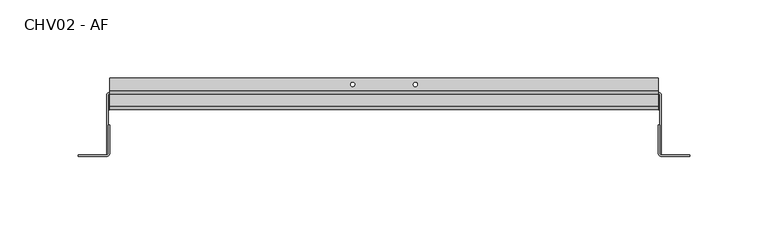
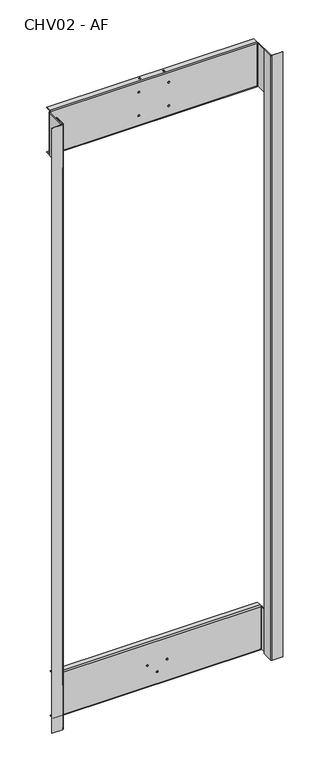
"""IFC4 building model written with IfcOpenShell, lengths in millimetres: pipe fitting geometry, CHV02 - AF : Chassi Chuveiro 02 - AF."""

from ifc_helpers import new_model, si_unit, frame, origin, place, context, project, spatial, polyline, circle_curve, source, transform, mapped, element, save
from ifc_brep_helpers import plane_surface, cylinder_surface, revolved_surface, advanced_brep


def chv02_af_7513bb66(model_context):
    return source(origin(), model_context, "Body", "AdvancedBrep", [
        advanced_brep(
        [(23.9210412, 0.0, 1020.95), (26.6210412, 0.0, 1020.95), (26.6210412, 0.95, 1020.95), (23.9210412, 0.95, 1020.95), (-26.6192949, 0.0, 1020.95), (-23.9192949, 0.0, 1020.95), (-23.9192949, 0.95, 1020.95), (-26.6192949, 0.95, 1020.95), (20.0, 7.325, 1081.0), (21.35, 5.975, 1081.0), (20.0, 4.625, 1081.0), (20.0, 4.625, 1081.95), (21.35, 5.975, 1081.95), (20.0, 7.325, 1081.95), (-20.0, 7.325, 1081.0), (-18.65, 5.975, 1081.0), (-20.0, 4.625, 1081.0), (-20.0, 4.625, 1081.95), (-18.65, 5.975, 1081.95), (-20.0, 7.325, 1081.95), (20.0, 7.325, 1002.9), (20.0, 4.625, 1002.9), (20.0, 4.625, 1001.95), (20.0, 7.325, 1001.95), (-20.0, 7.325, 1002.9), (-20.0, 4.625, 1002.9), (-20.0, 4.625, 1001.95), (-20.0, 7.325, 1001.95), (-1.3500783, -10.0, 25.2), (-7.83e-05, -10.0, 23.85), (1.3499217, -10.0, 25.2), (1.3499217, -9.05, 25.2), (-7.83e-05, -9.05, 23.85), (-1.3500783, -9.05, 25.2), (15.3999217, -10.0, 41.95), (16.7499217, -10.0, 40.6), (18.0999217, -10.0, 41.95), (18.0999217, -9.05, 41.95), (16.7499217, -9.05, 40.6), (15.3999217, -9.05, 41.95), (-18.1000783, -10.0, 41.95), (-16.7500783, -10.0, 40.6), (-15.4000783, -10.0, 41.95), (-15.4000783, -9.05, 41.95), (-16.7500783, -9.05, 40.6), (-18.1000783, -9.05, 41.95), (-26.6192949, 0.0, 1062.95), (-23.9192949, 0.0, 1062.95), (-23.9192949, 0.95, 1062.95), (-26.6192949, 0.95, 1062.95), (23.9210412, 0.0, 1062.95), (26.6210412, 0.0, 1062.95), (26.6210412, 0.95, 1062.95), (23.9210412, 0.95, 1062.95), (-175.0, 0.95, 1003.9), (-175.0, 0.95, 1080.0), (175.0, 0.95, 1080.0), (175.0, 0.95, 1003.9), (-176.95, -11.0, 80.0), (-176.95, -11.0, 3.9), (-176.95, -39.0487492, 3.9), (-176.95, -39.0487492, 80.0), (-176.0, -38.05, 80.0), (-176.0, -20.0, 80.0), (-176.0, -11.0, 80.0), (-175.0, -10.0, 80.0), (-175.0, -9.05, 80.0), (176.0, -38.05, 3.9), (176.0, -20.0, 3.9), (176.0, -11.0, 3.9), (175.0, -10.0, 3.9), (175.0, -9.05, 3.9), (176.95, -11.0, 3.9), (176.95, -39.0487492, 3.9), (176.95, -11.0, 80.0), (176.95, -39.0487492, 80.0), (175.0, -9.05, 80.0), (175.0, -10.0, 80.0), (176.0, -11.0, 80.0), (176.0, -20.0, 80.0), (176.0, -38.05, 80.0), (-175.0, -10.0, 3.9), (-175.0, -8.05, 1.95), (175.0, -8.05, 1.95), (175.0, -8.05, 2.9), (-175.0, -8.05, 2.9), (-175.0, -9.05, 3.9), (-175.0, 0.0, 1.95), (175.0, 0.0, 1.95), (175.0, 0.0, 2.9), (-175.0, 0.0, 2.9), (175.0, -8.05, 81.95), (-175.0, -8.05, 81.95), (-175.0, -8.05, 81.0), (175.0, -8.05, 81.0), (175.0, 0.0, 81.95), (-175.0, 0.0, 81.95), (-175.0, 0.0, 81.0), (175.0, 0.0, 81.0), (-176.0, -11.0, 3.9), (-176.0, -20.0, 3.9), (176.0, -20.0, 1003.9), (176.0, -38.05, 1003.9), (176.0, -38.05, 1.95), (176.0, -20.0, 1.95), (176.95, -39.0487492, 1003.9), (176.95, -39.0487492, 1080.0), (176.0, -38.05, 1080.0), (176.0, -38.05, 1081.95), (177.0, -39.05, 1081.95), (177.0, -39.05, 1.95), (-176.0, -38.05, 1003.9), (-176.0, -20.0, 1003.9), (-176.0, -20.0, 1.95), (-176.0, -38.05, 1.95), (-176.0, -38.05, 3.9), (-177.0, -39.05, 1.95), (-177.0, -39.05, 1081.95), (-176.0, -38.05, 1081.95), (-176.0, -38.05, 1080.0), (-176.95, -39.0487492, 1080.0), (-176.95, -39.0487492, 1003.9), (176.95, -1.0, 1003.9), (176.95, -1.0, 1080.0), (175.0, 0.0, 1080.0), (176.0, -1.0, 1080.0), (176.0, -20.0, 1080.0), (176.0, -1.0, 1003.9), (175.0, 0.0, 1003.9), (-176.95, -1.0, 1080.0), (-176.95, -1.0, 1003.9), (-176.0, -20.0, 1080.0), (-176.0, -1.0, 1080.0), (-175.0, 0.0, 1080.0), (-175.0, 0.0, 1003.9), (-176.0, -1.0, 1003.9), (-18.65, 5.975, 1001.95), (-18.65, 5.975, 1002.9), (21.35, 5.975, 1001.95), (21.35, 5.975, 1002.9), (175.0, 1.95, 1081.0), (175.0, 10.0, 1081.0), (175.0, 10.0, 1081.95), (175.0, 1.95, 1081.95), (175.0, 1.95, 1001.95), (175.0, 10.0, 1001.95), (175.0, 10.0, 1002.9), (175.0, 1.95, 1002.9), (-175.0, 10.0, 1081.95), (-175.0, 1.95, 1081.95), (-175.0, 10.0, 1081.0), (-175.0, 1.95, 1081.0), (-175.0, 1.95, 1002.9), (-175.0, 10.0, 1002.9), (-175.0, 10.0, 1001.95), (-175.0, 1.95, 1001.95), (-176.0, -20.0, 1081.95), (-175.05, -20.0, 1081.95), (-195.05, -39.05, 1081.95), (-195.05, -40.0, 1081.95), (-177.0, -40.0, 1081.95), (-175.05, -38.05, 1081.95), (-175.05, -20.0, 1.95), (-175.05, -38.05, 1.95), (-177.0, -40.0, 1.95), (-195.05, -40.0, 1.95), (-195.05, -39.05, 1.95), (176.0, -20.0, 1081.95), (175.05, -20.0, 1.95), (195.05, -39.05, 1.95), (195.05, -40.0, 1.95), (177.0, -40.0, 1.95), (175.05, -38.05, 1.95), (175.05, -20.0, 1081.95), (175.05, -38.05, 1081.95), (177.0, -40.0, 1081.95), (195.05, -40.0, 1081.95), (195.05, -39.05, 1081.95)],
        [
            (0, 1, circle_curve(frame((25.2710412, 0.0, 1020.95), z_axis=(0.0, -1.0, 0.0), x_axis=(-1.0, 0.0, 0.0)), 1.35)),
            (1, 2),
            (2, 3, circle_curve(frame((25.2710412, 0.95, 1020.95), z_axis=(0.0, 1.0, 0.0), x_axis=(-1.0, 0.0, 0.0)), 1.35)),
            (3, 0),
            (4, 5, circle_curve(frame((-25.2692949, 0.0, 1020.95), z_axis=(0.0, -1.0, 0.0), x_axis=(-1.0, 0.0, 0.0)), 1.35)),
            (5, 6),
            (6, 7, circle_curve(frame((-25.2692949, 0.95, 1020.95), z_axis=(0.0, 1.0, 0.0), x_axis=(-1.0, 0.0, 0.0)), 1.35)),
            (7, 4),
            (8, 9, circle_curve(frame((20.0, 5.975, 1081.0), z_axis=(0.0, 0.0, -1.0), x_axis=(0.0, 1.0, 0.0)), 1.35)),
            (9, 10, circle_curve(frame((20.0, 5.975, 1081.0), z_axis=(0.0, 0.0, -1.0), x_axis=(0.0, 1.0, 0.0)), 1.35)),
            (10, 11),
            (11, 12, circle_curve(frame((20.0, 5.975, 1081.95), z_axis=(0.0, 0.0, 1.0), x_axis=(0.0, 1.0, 0.0)), 1.35)),
            (12, 13, circle_curve(frame((20.0, 5.975, 1081.95), z_axis=(0.0, 0.0, 1.0), x_axis=(0.0, 1.0, 0.0)), 1.35)),
            (13, 8),
            (14, 15, circle_curve(frame((-20.0, 5.975, 1081.0), z_axis=(0.0, 0.0, -1.0), x_axis=(0.0, 1.0, 0.0)), 1.35)),
            (15, 16, circle_curve(frame((-20.0, 5.975, 1081.0), z_axis=(0.0, 0.0, -1.0), x_axis=(0.0, 1.0, 0.0)), 1.35)),
            (16, 17),
            (17, 18, circle_curve(frame((-20.0, 5.975, 1081.95), z_axis=(0.0, 0.0, 1.0), x_axis=(0.0, 1.0, 0.0)), 1.35)),
            (18, 19, circle_curve(frame((-20.0, 5.975, 1081.95), z_axis=(0.0, 0.0, 1.0), x_axis=(0.0, 1.0, 0.0)), 1.35)),
            (19, 14),
            (20, 21, circle_curve(frame((20.0, 5.975, 1002.9), z_axis=(0.0, 0.0, 1.0), x_axis=(0.0, 1.0, 0.0)), 1.35)),
            (21, 22),
            (22, 23, circle_curve(frame((20.0, 5.975, 1001.95), z_axis=(0.0, 0.0, -1.0), x_axis=(0.0, 1.0, 0.0)), 1.35)),
            (23, 20),
            (24, 25, circle_curve(frame((-20.0, 5.975, 1002.9), z_axis=(0.0, 0.0, 1.0), x_axis=(0.0, 1.0, 0.0)), 1.35)),
            (25, 26),
            (26, 27, circle_curve(frame((-20.0, 5.975, 1001.95), z_axis=(0.0, 0.0, -1.0), x_axis=(0.0, 1.0, 0.0)), 1.35)),
            (27, 24),
            (28, 29, circle_curve(frame((-7.83e-05, -10.0, 25.2), z_axis=(0.0, -1.0, 0.0), x_axis=(-1.0, 0.0, 0.0)), 1.35)),
            (29, 30, circle_curve(frame((-7.83e-05, -10.0, 25.2), z_axis=(0.0, -1.0, 0.0), x_axis=(-1.0, 0.0, 0.0)), 1.35)),
            (30, 31),
            (31, 32, circle_curve(frame((-7.83e-05, -9.05, 25.2), z_axis=(0.0, 1.0, 0.0), x_axis=(-1.0, 0.0, 0.0)), 1.35)),
            (32, 33, circle_curve(frame((-7.83e-05, -9.05, 25.2), z_axis=(0.0, 1.0, 0.0), x_axis=(-1.0, 0.0, 0.0)), 1.35)),
            (33, 28),
            (34, 35, circle_curve(frame((16.7499217, -10.0, 41.95), z_axis=(0.0, -1.0, 0.0), x_axis=(-1.0, 0.0, 0.0)), 1.35)),
            (35, 36, circle_curve(frame((16.7499217, -10.0, 41.95), z_axis=(0.0, -1.0, 0.0), x_axis=(-1.0, 0.0, 0.0)), 1.35)),
            (36, 37),
            (37, 38, circle_curve(frame((16.7499217, -9.05, 41.95), z_axis=(0.0, 1.0, 0.0), x_axis=(-1.0, 0.0, 0.0)), 1.35)),
            (38, 39, circle_curve(frame((16.7499217, -9.05, 41.95), z_axis=(0.0, 1.0, 0.0), x_axis=(-1.0, 0.0, 0.0)), 1.35)),
            (39, 34),
            (40, 41, circle_curve(frame((-16.7500783, -10.0, 41.95), z_axis=(0.0, -1.0, 0.0), x_axis=(-1.0, 0.0, 0.0)), 1.35)),
            (41, 42, circle_curve(frame((-16.7500783, -10.0, 41.95), z_axis=(0.0, -1.0, 0.0), x_axis=(-1.0, 0.0, 0.0)), 1.35)),
            (42, 43),
            (43, 44, circle_curve(frame((-16.7500783, -9.05, 41.95), z_axis=(0.0, 1.0, 0.0), x_axis=(-1.0, 0.0, 0.0)), 1.35)),
            (44, 45, circle_curve(frame((-16.7500783, -9.05, 41.95), z_axis=(0.0, 1.0, 0.0), x_axis=(-1.0, 0.0, 0.0)), 1.35)),
            (45, 40),
            (46, 47, circle_curve(frame((-25.2692949, 0.0, 1062.95), z_axis=(0.0, -1.0, 0.0), x_axis=(-1.0, 0.0, 0.0)), 1.35)),
            (47, 48),
            (48, 49, circle_curve(frame((-25.2692949, 0.95, 1062.95), z_axis=(0.0, 1.0, 0.0), x_axis=(-1.0, 0.0, 0.0)), 1.35)),
            (49, 46),
            (50, 51, circle_curve(frame((25.2710412, 0.0, 1062.95), z_axis=(0.0, -1.0, 0.0), x_axis=(-1.0, 0.0, 0.0)), 1.35)),
            (51, 52),
            (52, 53, circle_curve(frame((25.2710412, 0.95, 1062.95), z_axis=(0.0, 1.0, 0.0), x_axis=(-1.0, 0.0, 0.0)), 1.35)),
            (53, 50),
            (54, 55),
            (55, 56),
            (56, 57),
            (57, 54),
            (2, 3, circle_curve(frame((25.2710412, 0.95, 1020.95), z_axis=(0.0, -1.0, 0.0), x_axis=(-1.0, 0.0, 0.0)), 1.35)),
            (6, 7, circle_curve(frame((-25.2692949, 0.95, 1020.95), z_axis=(0.0, -1.0, 0.0), x_axis=(-1.0, 0.0, 0.0)), 1.35)),
            (48, 49, circle_curve(frame((-25.2692949, 0.95, 1062.95), z_axis=(0.0, -1.0, 0.0), x_axis=(-1.0, 0.0, 0.0)), 1.35)),
            (52, 53, circle_curve(frame((25.2710412, 0.95, 1062.95), z_axis=(0.0, -1.0, 0.0), x_axis=(-1.0, 0.0, 0.0)), 1.35)),
            (51, 50, circle_curve(frame((25.2710412, 0.0, 1062.95), z_axis=(0.0, -1.0, 0.0), x_axis=(-1.0, 0.0, 0.0)), 1.35)),
            (47, 46, circle_curve(frame((-25.2692949, 0.0, 1062.95), z_axis=(0.0, -1.0, 0.0), x_axis=(-1.0, 0.0, 0.0)), 1.35)),
            (58, 59),
            (59, 60),
            (60, 61),
            (61, 58),
            (62, 63),
            (63, 64),
            (64, 65, circle_curve(frame((-175.0, -11.0, 80.0), z_axis=(0.0, 0.0, -1.0), x_axis=(0.0, -1.0, 0.0)), 1.0)),
            (65, 66),
            (66, 58, circle_curve(frame((-175.0, -11.0, 80.0), z_axis=(0.0, 0.0, 1.0), x_axis=(0.0, -1.0, 0.0)), 1.95)),
            (61, 62, circle_curve(frame((-177.0, -38.05, 80.0), z_axis=(0.0, 0.0, 1.0), x_axis=(-1.0, 0.0, 0.0)), 1.0)),
            (67, 68),
            (68, 69),
            (69, 70, circle_curve(frame((175.0, -11.0, 3.9), z_axis=(0.0, 0.0, 1.0), x_axis=(0.0, -1.0, 0.0)), 1.0)),
            (70, 71),
            (71, 72, circle_curve(frame((175.0, -11.0, 3.9), z_axis=(0.0, 0.0, -1.0), x_axis=(0.0, -1.0, 0.0)), 1.95)),
            (72, 73),
            (73, 67, circle_curve(frame((177.0, -38.05, 3.9), z_axis=(0.0, 0.0, -1.0), x_axis=(1.0, 0.0, 0.0)), 1.0)),
            (72, 74),
            (74, 75),
            (75, 73),
            (74, 76, circle_curve(frame((175.0, -11.0, 80.0), z_axis=(0.0, 0.0, 1.0), x_axis=(0.0, -1.0, 0.0)), 1.95)),
            (76, 77),
            (77, 78, circle_curve(frame((175.0, -11.0, 80.0), z_axis=(0.0, 0.0, -1.0), x_axis=(0.0, -1.0, 0.0)), 1.0)),
            (78, 79),
            (79, 80),
            (80, 75, circle_curve(frame((177.0, -38.05, 80.0), z_axis=(0.0, 0.0, 1.0), x_axis=(1.0, 0.0, 0.0)), 1.0)),
            (78, 69),
            (68, 79),
            (81, 82, circle_curve(frame((-175.0, -8.05, 3.9), z_axis=(1.0, 0.0, 0.0), x_axis=(0.0, 1.0, 0.0)), 1.95)),
            (82, 83),
            (83, 70, circle_curve(frame((175.0, -8.05, 3.9), z_axis=(-1.0, 0.0, 0.0), x_axis=(0.0, 1.0, 0.0)), 1.95)),
            (70, 81),
            (71, 84, circle_curve(frame((175.0, -8.05, 3.9), z_axis=(1.0, 0.0, 0.0), x_axis=(0.0, 1.0, 0.0)), 1.0)),
            (84, 85),
            (85, 86, circle_curve(frame((-175.0, -8.05, 3.9), z_axis=(-1.0, 0.0, 0.0), x_axis=(0.0, 1.0, 0.0)), 1.0)),
            (86, 71),
            (87, 88),
            (88, 83),
            (82, 87),
            (84, 89),
            (89, 90),
            (90, 85),
            (89, 88),
            (87, 90),
            (77, 91, circle_curve(frame((175.0, -8.05, 80.0), z_axis=(-1.0, 0.0, 0.0), x_axis=(0.0, 1.0, 0.0)), 1.95)),
            (91, 92),
            (92, 65, circle_curve(frame((-175.0, -8.05, 80.0), z_axis=(1.0, 0.0, 0.0), x_axis=(0.0, 1.0, 0.0)), 1.95)),
            (65, 77),
            (66, 93, circle_curve(frame((-175.0, -8.05, 80.0), z_axis=(-1.0, 0.0, 0.0), x_axis=(0.0, 1.0, 0.0)), 1.0)),
            (93, 94),
            (94, 76, circle_curve(frame((175.0, -8.05, 80.0), z_axis=(1.0, 0.0, 0.0), x_axis=(0.0, 1.0, 0.0)), 1.0)),
            (76, 66),
            (95, 96),
            (96, 92),
            (91, 95),
            (93, 97),
            (97, 98),
            (98, 94),
            (97, 96),
            (95, 98),
            (65, 81),
            (70, 77),
            (28, 30, circle_curve(frame((-7.83e-05, -10.0, 25.2), z_axis=(0.0, 1.0, 0.0), x_axis=(-1.0, 0.0, 0.0)), 1.35)),
            (34, 36, circle_curve(frame((16.7499217, -10.0, 41.95), z_axis=(0.0, 1.0, 0.0), x_axis=(-1.0, 0.0, 0.0)), 1.35)),
            (40, 42, circle_curve(frame((-16.7500783, -10.0, 41.95), z_axis=(0.0, 1.0, 0.0), x_axis=(-1.0, 0.0, 0.0)), 1.35)),
            (86, 66),
            (76, 71),
            (31, 33, circle_curve(frame((-7.83e-05, -9.05, 25.2), z_axis=(0.0, -1.0, 0.0), x_axis=(-1.0, 0.0, 0.0)), 1.35)),
            (37, 39, circle_curve(frame((16.7499217, -9.05, 41.95), z_axis=(0.0, -1.0, 0.0), x_axis=(-1.0, 0.0, 0.0)), 1.35)),
            (43, 45, circle_curve(frame((-16.7500783, -9.05, 41.95), z_axis=(0.0, -1.0, 0.0), x_axis=(-1.0, 0.0, 0.0)), 1.35)),
            (64, 99),
            (99, 81, circle_curve(frame((-175.0, -11.0, 3.9), z_axis=(0.0, 0.0, -1.0), x_axis=(0.0, -1.0, 0.0)), 1.0)),
            (86, 59, circle_curve(frame((-175.0, -11.0, 3.9), z_axis=(0.0, 0.0, 1.0), x_axis=(0.0, -1.0, 0.0)), 1.95)),
            (63, 100),
            (100, 99),
            (81, 86),
            (101, 102),
            (102, 80),
            (79, 101),
            (103, 104),
            (104, 68),
            (67, 103),
            (102, 105, circle_curve(frame((177.0, -38.05, 1003.9), z_axis=(0.0, 0.0, 1.0), x_axis=(1.0, 0.0, 0.0)), 1.0)),
            (105, 106),
            (106, 107, circle_curve(frame((177.0, -38.05, 1080.0), z_axis=(0.0, 0.0, -1.0), x_axis=(1.0, 0.0, 0.0)), 1.0)),
            (107, 108),
            (108, 109, circle_curve(frame((177.0, -38.05, 1081.95), z_axis=(0.0, 0.0, 1.0), x_axis=(1.0, 0.0, 0.0)), 1.0)),
            (109, 110),
            (110, 103, circle_curve(frame((177.0, -38.05, 1.95), z_axis=(0.0, 0.0, -1.0), x_axis=(1.0, 0.0, 0.0)), 1.0)),
            (111, 112),
            (112, 63),
            (62, 111),
            (113, 114),
            (114, 115),
            (115, 100),
            (100, 113),
            (60, 115, circle_curve(frame((-177.0, -38.05, 3.9), z_axis=(0.0, 0.0, 1.0), x_axis=(-1.0, 0.0, 0.0)), 1.0)),
            (114, 116, circle_curve(frame((-177.0, -38.05, 1.95), z_axis=(0.0, 0.0, -1.0), x_axis=(-1.0, 0.0, 0.0)), 1.0)),
            (116, 117),
            (117, 118, circle_curve(frame((-177.0, -38.05, 1081.95), z_axis=(0.0, 0.0, 1.0), x_axis=(-1.0, 0.0, 0.0)), 1.0)),
            (118, 119),
            (119, 120, circle_curve(frame((-177.0, -38.05, 1080.0), z_axis=(0.0, 0.0, -1.0), x_axis=(-1.0, 0.0, 0.0)), 1.0)),
            (120, 121),
            (121, 111, circle_curve(frame((-177.0, -38.05, 1003.9), z_axis=(0.0, 0.0, 1.0), x_axis=(-1.0, 0.0, 0.0)), 1.0)),
            (122, 123),
            (123, 106),
            (105, 122),
            (123, 56, circle_curve(frame((175.0, -1.0, 1080.0), z_axis=(0.0, 0.0, 1.0), x_axis=(0.0, -1.0, 0.0)), 1.95)),
            (56, 124),
            (124, 125, circle_curve(frame((175.0, -1.0, 1080.0), z_axis=(0.0, 0.0, -1.0), x_axis=(0.0, -1.0, 0.0)), 1.0)),
            (125, 126),
            (126, 107),
            (101, 127),
            (127, 128, circle_curve(frame((175.0, -1.0, 1003.9), z_axis=(0.0, 0.0, 1.0), x_axis=(0.0, -1.0, 0.0)), 1.0)),
            (128, 57),
            (57, 122, circle_curve(frame((175.0, -1.0, 1003.9), z_axis=(0.0, 0.0, -1.0), x_axis=(0.0, -1.0, 0.0)), 1.95)),
            (129, 130),
            (130, 121),
            (120, 129),
            (119, 131),
            (131, 132),
            (132, 133, circle_curve(frame((-175.0, -1.0, 1080.0), z_axis=(0.0, 0.0, -1.0), x_axis=(0.0, -1.0, 0.0)), 1.0)),
            (133, 55),
            (55, 129, circle_curve(frame((-175.0, -1.0, 1080.0), z_axis=(0.0, 0.0, 1.0), x_axis=(0.0, -1.0, 0.0)), 1.95)),
            (130, 54, circle_curve(frame((-175.0, -1.0, 1003.9), z_axis=(0.0, 0.0, -1.0), x_axis=(0.0, -1.0, 0.0)), 1.95)),
            (54, 134),
            (134, 135, circle_curve(frame((-175.0, -1.0, 1003.9), z_axis=(0.0, 0.0, 1.0), x_axis=(0.0, -1.0, 0.0)), 1.0)),
            (135, 112),
            (27, 136, circle_curve(frame((-20.0, 5.975, 1001.95), z_axis=(0.0, 0.0, -1.0), x_axis=(0.0, 1.0, 0.0)), 1.35)),
            (136, 26, circle_curve(frame((-20.0, 5.975, 1001.95), z_axis=(0.0, 0.0, -1.0), x_axis=(0.0, 1.0, 0.0)), 1.35)),
            (25, 137, circle_curve(frame((-20.0, 5.975, 1002.9), z_axis=(0.0, 0.0, 1.0), x_axis=(0.0, 1.0, 0.0)), 1.35)),
            (137, 24, circle_curve(frame((-20.0, 5.975, 1002.9), z_axis=(0.0, 0.0, 1.0), x_axis=(0.0, 1.0, 0.0)), 1.35)),
            (23, 138, circle_curve(frame((20.0, 5.975, 1001.95), z_axis=(0.0, 0.0, -1.0), x_axis=(0.0, 1.0, 0.0)), 1.35)),
            (138, 22, circle_curve(frame((20.0, 5.975, 1001.95), z_axis=(0.0, 0.0, -1.0), x_axis=(0.0, 1.0, 0.0)), 1.35)),
            (21, 139, circle_curve(frame((20.0, 5.975, 1002.9), z_axis=(0.0, 0.0, 1.0), x_axis=(0.0, 1.0, 0.0)), 1.35)),
            (139, 20, circle_curve(frame((20.0, 5.975, 1002.9), z_axis=(0.0, 0.0, 1.0), x_axis=(0.0, 1.0, 0.0)), 1.35)),
            (125, 127),
            (101, 126),
            (56, 140, circle_curve(frame((175.0, 1.95, 1080.0), z_axis=(-1.0, 0.0, 0.0), x_axis=(0.0, 1.0, 0.0)), 1.0)),
            (140, 141),
            (141, 142),
            (142, 143),
            (143, 124, circle_curve(frame((175.0, 1.95, 1080.0), z_axis=(1.0, 0.0, 0.0), x_axis=(0.0, 1.0, 0.0)), 1.95)),
            (144, 145),
            (145, 146),
            (146, 147),
            (147, 57, circle_curve(frame((175.0, 1.95, 1003.9), z_axis=(-1.0, 0.0, 0.0), x_axis=(0.0, 1.0, 0.0)), 1.0)),
            (128, 144, circle_curve(frame((175.0, 1.95, 1003.9), z_axis=(1.0, 0.0, 0.0), x_axis=(0.0, 1.0, 0.0)), 1.95)),
            (142, 148),
            (148, 149),
            (149, 143),
            (17, 19, circle_curve(frame((-20.0, 5.975, 1081.95), z_axis=(0.0, 0.0, -1.0), x_axis=(0.0, 1.0, 0.0)), 1.35)),
            (11, 13, circle_curve(frame((20.0, 5.975, 1081.95), z_axis=(0.0, 0.0, -1.0), x_axis=(0.0, 1.0, 0.0)), 1.35)),
            (150, 148),
            (141, 150),
            (151, 150),
            (140, 151),
            (8, 10, circle_curve(frame((20.0, 5.975, 1081.0), z_axis=(0.0, 0.0, 1.0), x_axis=(0.0, 1.0, 0.0)), 1.35)),
            (14, 16, circle_curve(frame((-20.0, 5.975, 1081.0), z_axis=(0.0, 0.0, 1.0), x_axis=(0.0, 1.0, 0.0)), 1.35)),
            (55, 151, circle_curve(frame((-175.0, 1.95, 1080.0), z_axis=(-1.0, 0.0, 0.0), x_axis=(0.0, 1.0, 0.0)), 1.0)),
            (149, 133, circle_curve(frame((-175.0, 1.95, 1080.0), z_axis=(1.0, 0.0, 0.0), x_axis=(0.0, 1.0, 0.0)), 1.95)),
            (133, 124),
            (147, 152),
            (152, 54, circle_curve(frame((-175.0, 1.95, 1003.9), z_axis=(-1.0, 0.0, 0.0), x_axis=(0.0, 1.0, 0.0)), 1.0)),
            (146, 153),
            (153, 152),
            (145, 154),
            (154, 153),
            (144, 155),
            (155, 154),
            (134, 155, circle_curve(frame((-175.0, 1.95, 1003.9), z_axis=(1.0, 0.0, 0.0), x_axis=(0.0, 1.0, 0.0)), 1.95)),
            (128, 134),
            (124, 128),
            (133, 134),
            (0, 1, circle_curve(frame((25.2710412, 0.0, 1020.95), z_axis=(0.0, 1.0, 0.0), x_axis=(-1.0, 0.0, 0.0)), 1.35)),
            (4, 5, circle_curve(frame((-25.2692949, 0.0, 1020.95), z_axis=(0.0, 1.0, 0.0), x_axis=(-1.0, 0.0, 0.0)), 1.35)),
            (132, 135),
            (131, 112),
            (118, 156),
            (156, 131),
            (157, 156),
            (117, 158),
            (158, 159),
            (159, 160),
            (160, 161, circle_curve(frame((-177.0, -38.05, 1081.95), z_axis=(0.0, 0.0, 1.0), x_axis=(-1.0, 0.0, 0.0)), 1.95)),
            (161, 157),
            (113, 162),
            (162, 163),
            (163, 164, circle_curve(frame((-177.0, -38.05, 1.95), z_axis=(0.0, 0.0, -1.0), x_axis=(-1.0, 0.0, 0.0)), 1.95)),
            (164, 165),
            (165, 166),
            (166, 116),
            (162, 157),
            (161, 163),
            (159, 165),
            (164, 160),
            (166, 158),
            (167, 108),
            (126, 167),
            (168, 104),
            (110, 169),
            (169, 170),
            (170, 171),
            (171, 172, circle_curve(frame((177.0, -38.05, 1.95), z_axis=(0.0, 0.0, -1.0), x_axis=(1.0, 0.0, 0.0)), 1.95)),
            (172, 168),
            (167, 173),
            (173, 174),
            (174, 175, circle_curve(frame((177.0, -38.05, 1081.95), z_axis=(0.0, 0.0, 1.0), x_axis=(1.0, 0.0, 0.0)), 1.95)),
            (175, 176),
            (176, 177),
            (177, 109),
            (173, 168),
            (172, 174),
            (170, 176),
            (175, 171),
            (177, 169),
        ],
        [
            revolved_surface(polyline([(23.921041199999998, 0.0, 1020.95), (23.921041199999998, 0.95, 1020.95)]), (25.2710412, 0.0, 1020.95), (0.0, -1.0, 0.0)),
            revolved_surface(polyline([(-26.6192949, 0.0, 1020.95), (-26.6192949, 0.95, 1020.95)]), (-25.2692949, 0.0, 1020.95), (0.0, -1.0, 0.0)),
            revolved_surface(polyline([(20.0, 7.324999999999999, 1081.0), (20.0, 7.324999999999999, 1081.95)]), (20.0, 5.975, 1081.0), (0.0, 0.0, -1.0)),
            revolved_surface(polyline([(-20.0, 7.324999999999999, 1081.0), (-20.0, 7.324999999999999, 1081.95)]), (-20.0, 5.975, 1081.0), (0.0, 0.0, -1.0)),
            revolved_surface(polyline([(20.0, 7.324999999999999, 1002.9), (20.0, 7.324999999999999, 1001.95)]), (20.0, 5.975, 1002.9), (0.0, 0.0, 1.0)),
            revolved_surface(polyline([(-20.0, 7.324999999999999, 1002.9), (-20.0, 7.324999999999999, 1001.95)]), (-20.0, 5.975, 1002.9), (0.0, 0.0, 1.0)),
            revolved_surface(polyline([(-1.3500783, -10.0, 25.2), (-1.3500783, -9.05, 25.2)]), (-7.83e-05, -10.0, 25.2), (0.0, -1.0, 0.0)),
            revolved_surface(polyline([(15.399921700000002, -10.0, 41.95), (15.399921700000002, -9.05, 41.95)]), (16.7499217, -10.0, 41.95), (0.0, -1.0, 0.0)),
            revolved_surface(polyline([(-18.1000783, -10.0, 41.95), (-18.1000783, -9.05, 41.95)]), (-16.7500783, -10.0, 41.95), (0.0, -1.0, 0.0)),
            revolved_surface(polyline([(-26.6192949, 0.0, 1062.95), (-26.6192949, 0.95, 1062.95)]), (-25.2692949, 0.0, 1062.95), (0.0, -1.0, 0.0)),
            revolved_surface(polyline([(23.921041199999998, 0.0, 1062.95), (23.921041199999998, 0.95, 1062.95)]), (25.2710412, 0.0, 1062.95), (0.0, -1.0, 0.0)),
            plane_surface(frame((0.0, 0.95, 1041.95), z_axis=(0.0, 1.0, 0.0), x_axis=(1.0, 0.0, 0.0))),
            plane_surface(frame((-176.95, -9.05, 41.95), z_axis=(-1.0, 0.0, 0.0), x_axis=(0.0, 1.0, 0.0))),
            plane_surface(frame((-176.95, -9.9683795, 80.0), z_axis=(0.0, 0.0, 1.0), x_axis=(0.0, -1.0, 0.0))),
            plane_surface(frame((176.95, -9.9683795, 3.9), z_axis=(0.0, 0.0, -1.0), x_axis=(0.0, 1.0, 0.0))),
            plane_surface(frame((176.95, -9.05, 41.95), z_axis=(1.0, 0.0, 0.0), x_axis=(0.0, 1.0, 0.0))),
            plane_surface(frame((176.95, -9.9683795, 80.0), z_axis=(0.0, 0.0, 1.0), x_axis=(0.0, -1.0, 0.0))),
            plane_surface(frame((176.0, -9.05, 41.95), z_axis=(-1.0, 0.0, 0.0), x_axis=(0.0, 1.0, 0.0))),
            cylinder_surface(frame((175.0, -8.05, 3.9), z_axis=(1.0, 0.0, 0.0), x_axis=(0.0, 1.0, 0.0)), 1.95),
            revolved_surface(polyline([(175.0, -7.050000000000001, 3.9), (-175.0, -7.050000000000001, 3.9)]), (175.0, -8.05, 3.9), (1.0, 0.0, 0.0)),
            plane_surface(frame((0.0, -9.05, 1.95), z_axis=(0.0, 0.0, -1.0), x_axis=(0.0, -1.0, 0.0))),
            plane_surface(frame((0.0, -9.05, 2.9), z_axis=(0.0, 0.0, 1.0), x_axis=(0.0, -1.0, 0.0))),
            plane_surface(frame((175.0, 0.0, 1.95), z_axis=(0.0, 1.0, 0.0), x_axis=(1.0, 0.0, 0.0))),
            cylinder_surface(frame((-175.0, -8.05, 80.0), z_axis=(-1.0, 0.0, 0.0), x_axis=(0.0, 1.0, 0.0)), 1.95),
            revolved_surface(polyline([(-175.0, -7.050000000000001, 80.0), (175.0, -7.050000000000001, 80.0)]), (-175.0, -8.05, 80.0), (-1.0, 0.0, 0.0)),
            plane_surface(frame((0.0, -9.05, 81.95), z_axis=(0.0, 0.0, 1.0), x_axis=(0.0, 1.0, 0.0))),
            plane_surface(frame((0.0, -9.05, 81.0), z_axis=(0.0, 0.0, -1.0), x_axis=(0.0, 1.0, 0.0))),
            plane_surface(frame((-175.0, 0.0, 81.95), z_axis=(0.0, 1.0, 0.0), x_axis=(1.0, 0.0, 0.0))),
            plane_surface(frame((0.0, -10.0, 41.95), z_axis=(0.0, -1.0, 0.0), x_axis=(1.0, 0.0, 0.0))),
            plane_surface(frame((0.0, -9.05, 41.95), z_axis=(0.0, 1.0, 0.0), x_axis=(1.0, 0.0, 0.0))),
            plane_surface(frame((175.0, -10.0, 81.95), z_axis=(1.0, 0.0, 0.0), x_axis=(0.0, -1.0, 0.0))),
            plane_surface(frame((-175.0, -10.0, 1.95), z_axis=(-1.0, 0.0, 0.0), x_axis=(0.0, 1.0, 0.0))),
            revolved_surface(polyline([(-175.0, -12.0, 80.0), (-175.0, -12.0, 3.9000000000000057)]), (-175.0, -11.0, 80.0), (0.0, 0.0, 1.0)),
            cylinder_surface(frame((-175.0, -11.0, 80.0), z_axis=(0.0, 0.0, 1.0), x_axis=(0.0, -1.0, 0.0)), 1.95),
            plane_surface(frame((-176.0, -9.05, 41.95), z_axis=(1.0, 0.0, 0.0), x_axis=(0.0, 1.0, 0.0))),
            cylinder_surface(frame((175.0, -11.0, 80.0), z_axis=(0.0, 0.0, 1.0), x_axis=(0.0, -1.0, 0.0)), 1.95),
            revolved_surface(polyline([(175.0, -12.0, 80.0), (175.0, -12.0, 3.9000000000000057)]), (175.0, -11.0, 80.0), (0.0, 0.0, 1.0)),
            plane_surface(frame((176.0, -30.0, 541.95), z_axis=(1.0, 0.0, 0.0), x_axis=(0.0, 1.0, 0.0))),
            revolved_surface(polyline([(178.0, -38.05, 1081.95), (178.0, -38.05, 1.9500000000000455)]), (177.0, -38.05, 1081.95), (0.0, 0.0, 1.0)),
            plane_surface(frame((-176.0, -30.0, 541.95), z_axis=(-1.0, 0.0, 0.0), x_axis=(0.0, 1.0, 0.0))),
            revolved_surface(polyline([(-178.0, -38.05, 1.95), (-178.0, -38.05, 1081.95)]), (-177.0, -38.05, 1.95), (0.0, 0.0, -1.0)),
            plane_surface(frame((176.95, 0.95, 1041.95), z_axis=(1.0, 0.0, 0.0), x_axis=(0.0, 1.0, 0.0))),
            plane_surface(frame((176.95, 0.0316205, 1080.0), z_axis=(0.0, 0.0, 1.0), x_axis=(0.0, -1.0, 0.0))),
            plane_surface(frame((176.95, 0.0316205, 1003.9), z_axis=(0.0, 0.0, -1.0), x_axis=(0.0, 1.0, 0.0))),
            plane_surface(frame((-176.95, 0.95, 1041.95), z_axis=(-1.0, 0.0, 0.0), x_axis=(0.0, 1.0, 0.0))),
            plane_surface(frame((-176.95, 0.0316205, 1080.0), z_axis=(0.0, 0.0, 1.0), x_axis=(0.0, -1.0, 0.0))),
            plane_surface(frame((-176.95, 0.0316205, 1003.9), z_axis=(0.0, 0.0, -1.0), x_axis=(0.0, 1.0, 0.0))),
            plane_surface(frame((176.0, 0.95, 1041.95), z_axis=(-1.0, 0.0, 0.0), x_axis=(0.0, 1.0, 0.0))),
            plane_surface(frame((175.0, 0.0, 1081.95), z_axis=(1.0, 0.0, 0.0), x_axis=(0.0, -1.0, 0.0))),
            cylinder_surface(frame((175.0, -1.0, 1080.0), z_axis=(0.0, 0.0, 1.0), x_axis=(0.0, -1.0, 0.0)), 1.95),
            plane_surface(frame((0.0, 0.95, 1081.95), z_axis=(0.0, 0.0, 1.0), x_axis=(0.0, 1.0, 0.0))),
            plane_surface(frame((-175.0, 10.0, 1081.95), z_axis=(0.0, 1.0, 0.0), x_axis=(1.0, 0.0, 0.0))),
            plane_surface(frame((0.0, 0.95, 1081.0), z_axis=(0.0, 0.0, -1.0), x_axis=(0.0, 1.0, 0.0))),
            revolved_surface(polyline([(-175.0, 2.95, 1080.0), (175.0, 2.95, 1080.0)]), (-175.0, 1.95, 1080.0), (-1.0, 0.0, 0.0)),
            cylinder_surface(frame((-175.0, 1.95, 1080.0), z_axis=(-1.0, 0.0, 0.0), x_axis=(0.0, 1.0, 0.0)), 1.95),
            plane_surface(frame((-175.0, 0.0, 1001.95), z_axis=(-1.0, 0.0, 0.0), x_axis=(0.0, 1.0, 0.0))),
            revolved_surface(polyline([(175.0, 2.95, 1003.9), (-175.0, 2.95, 1003.9)]), (175.0, 1.95, 1003.9), (1.0, 0.0, 0.0)),
            plane_surface(frame((0.0, 0.95, 1002.9), z_axis=(0.0, 0.0, 1.0), x_axis=(0.0, -1.0, 0.0))),
            plane_surface(frame((175.0, 10.0, 1001.95), z_axis=(0.0, 1.0, 0.0), x_axis=(1.0, 0.0, 0.0))),
            plane_surface(frame((0.0, 0.95, 1001.95), z_axis=(0.0, 0.0, -1.0), x_axis=(0.0, -1.0, 0.0))),
            cylinder_surface(frame((175.0, 1.95, 1003.9), z_axis=(1.0, 0.0, 0.0), x_axis=(0.0, 1.0, 0.0)), 1.95),
            revolved_surface(polyline([(175.0, -2.0, 1080.0), (175.0, -2.0, 1003.9)]), (175.0, -1.0, 1080.0), (0.0, 0.0, 1.0)),
            plane_surface(frame((0.0, 0.0, 1041.95), z_axis=(0.0, -1.0, 0.0), x_axis=(1.0, 0.0, 0.0))),
            revolved_surface(polyline([(-175.0, -2.0, 1080.0), (-175.0, -2.0, 1003.9)]), (-175.0, -1.0, 1080.0), (0.0, 0.0, 1.0)),
            cylinder_surface(frame((-175.0, -1.0, 1080.0), z_axis=(0.0, 0.0, 1.0), x_axis=(0.0, -1.0, 0.0)), 1.95),
            plane_surface(frame((-176.0, 0.95, 1041.95), z_axis=(1.0, 0.0, 0.0), x_axis=(0.0, 1.0, 0.0))),
            plane_surface(frame((-176.0, -40.0, 1081.95), z_axis=(0.0, 0.0, 1.0), x_axis=(0.0, -1.0, 0.0))),
            plane_surface(frame((-176.0, -20.0, 1.95), z_axis=(0.0, 0.0, -1.0), x_axis=(0.0, 1.0, 0.0))),
            plane_surface(frame((-175.05, -30.0, 541.95), z_axis=(1.0, 0.0, 0.0), x_axis=(0.0, 1.0, 0.0))),
            plane_surface(frame((-176.0, -20.0, 1081.95), z_axis=(0.0, 1.0, 0.0), x_axis=(0.0, 0.0, 1.0))),
            plane_surface(frame((-175.05, -40.0, 541.95), z_axis=(0.0, -1.0, 0.0), x_axis=(1.0, 0.0, 0.0))),
            plane_surface(frame((-175.05, -39.05, 541.95), z_axis=(0.0, 1.0, 0.0), x_axis=(1.0, 0.0, 0.0))),
            plane_surface(frame((-195.05, -40.0, 1.95), z_axis=(-1.0, 0.0, 0.0), x_axis=(0.0, 1.0, 0.0))),
            cylinder_surface(frame((-177.0, -38.05, 1.95), z_axis=(0.0, 0.0, -1.0), x_axis=(-1.0, 0.0, 0.0)), 1.95),
            plane_surface(frame((176.0, -40.0, 1.95), z_axis=(0.0, 0.0, -1.0), x_axis=(0.0, -1.0, 0.0))),
            plane_surface(frame((176.0, -20.0, 1081.95), z_axis=(0.0, 0.0, 1.0), x_axis=(0.0, 1.0, 0.0))),
            plane_surface(frame((175.05, -30.0, 541.95), z_axis=(-1.0, 0.0, 0.0), x_axis=(0.0, 1.0, 0.0))),
            plane_surface(frame((176.0, -20.0, 1.95), z_axis=(0.0, 1.0, 0.0), x_axis=(0.0, 0.0, -1.0))),
            plane_surface(frame((175.05, -40.0, 541.95), z_axis=(0.0, -1.0, 0.0), x_axis=(-1.0, 0.0, 0.0))),
            plane_surface(frame((175.05, -39.05, 541.95), z_axis=(0.0, 1.0, 0.0), x_axis=(-1.0, 0.0, 0.0))),
            plane_surface(frame((195.05, -40.0, 1081.95), z_axis=(1.0, 0.0, 0.0), x_axis=(0.0, 1.0, 0.0))),
            cylinder_surface(frame((177.0, -38.05, 1081.95), z_axis=(0.0, 0.0, 1.0), x_axis=(1.0, 0.0, 0.0)), 1.95),
            plane_surface(frame((-176.95, -9.9683795, 3.9), z_axis=(0.0, 0.0, -1.0), x_axis=(0.0, 1.0, 0.0))),
        ],
        [
            (0, [[1, 2, 3, 4]]),
            (1, [[5, 6, 7, 8]]),
            (2, [[9, 10, 11, 12, 13, 14]]),
            (3, [[15, 16, 17, 18, 19, 20]]),
            (4, [[21, 22, 23, 24]]),
            (5, [[25, 26, 27, 28]]),
            (6, [[29, 30, 31, 32, 33, 34]]),
            (7, [[35, 36, 37, 38, 39, 40]]),
            (8, [[41, 42, 43, 44, 45, 46]]),
            (9, [[47, 48, 49, 50]]),
            (10, [[51, 52, 53, 54]]),
            (11, [[55, 56, 57, 58], [-3, 59], [-7, 60], [-49, 61], [-53, 62]]),
            (10, [[-62, -52, 63, -54]]),
            (9, [[-61, -48, 64, -50]]),
            (12, [[65, 66, 67, 68]]),
            (13, [[69, 70, 71, 72, 73, -68, 74]]),
            (14, [[75, 76, 77, 78, 79, 80, 81]]),
            (15, [[82, 83, 84, -80]]),
            (16, [[-83, 85, 86, 87, 88, 89, 90]]),
            (17, [[91, -76, 92, -88]]),
            (18, [[93, 94, 95, 96]]),
            (19, [[97, 98, 99, 100]]),
            (20, [[101, 102, -94, 103]]),
            (21, [[104, 105, 106, -98]]),
            (22, [[107, -101, 108, -105]]),
            (23, [[109, 110, 111, 112]]),
            (24, [[113, 114, 115, 116]]),
            (25, [[117, 118, -110, 119]]),
            (26, [[120, 121, 122, -114]]),
            (27, [[123, -117, 124, -121]]),
            (28, [[-112, 125, -96, 126], [127, -30, -29], [128, -36, -35], [129, -42, -41]]),
            (29, [[130, -116, 131, -100], [-32, 132, -33], [-38, 133, -39], [-44, 134, -45]]),
            (30, [[-102, -107, -104, -97, -78, -95]]),
            (31, [[-118, -123, -120, -113, -72, -111]]),
            (32, [[-125, -71, 135, 136]]),
            (33, [[-65, -73, -130, 137]]),
            (34, [[-135, -70, 138, 139]]),
            (8, [[-134, -43, -129, -46]]),
            (7, [[-133, -37, -128, -40]]),
            (35, [[-131, -85, -82, -79]]),
            (30, [[-115, -122, -124, -119, -109, -86]]),
            (31, [[-99, -106, -108, -103, -93, 140]]),
            (36, [[-91, -87, -126, -77]]),
            (6, [[-132, -31, -127, -34]]),
            (37, [[141, 142, -89, 143]]),
            (37, [[144, 145, -75, 146]]),
            (38, [[147, 148, 149, 150, 151, 152, 153, -146, -81, -84, -90, -142]]),
            (39, [[154, 155, -69, 156]]),
            (39, [[157, 158, 159, 160]]),
            (40, [[161, -158, 162, 163, 164, 165, 166, 167, 168, -156, -74, -67]]),
            (41, [[169, 170, -148, 171]]),
            (42, [[-170, 172, 173, 174, 175, 176, -149]]),
            (43, [[-141, 177, 178, 179, 180, -171, -147]]),
            (44, [[181, 182, -167, 183]]),
            (45, [[184, 185, 186, 187, 188, -183, -166]]),
            (46, [[-182, 189, 190, 191, 192, -154, -168]]),
            (5, [[193, 194, -26, 195, 196, -28]]),
            (4, [[197, 198, -22, 199, 200, -24]]),
            (47, [[201, -177, 202, -175]]),
            (48, [[203, 204, 205, 206, 207, -173]]),
            (48, [[208, 209, 210, 211, -179, 212]]),
            (49, [[-57, -172, -169, -180]]),
            (50, [[213, 214, 215, -206], [-18, 216, -19], [217, -13, -12]]),
            (51, [[218, -213, -205, 219]]),
            (52, [[220, -219, -204, 221], [-9, 222, -10], [223, -16, -15]]),
            (53, [[224, -221, -203, -56]]),
            (54, [[-207, -215, 225, 226]]),
            (55, [[-214, -218, -220, -224, -187, -225]]),
            (56, [[-211, 227, 228, -58]]),
            (57, [[-210, 229, 230, -227], [-21, -200, -199], [-195, -25, -196]]),
            (58, [[-209, 231, 232, -229]]),
            (59, [[-231, -208, 233, 234], [-27, -194, -193], [-197, -23, -198]]),
            (60, [[235, -233, -212, 236]]),
            (55, [[-228, -230, -232, -234, -235, -190]]),
            (61, [[-201, -174, 237, -178]]),
            (62, [[-226, 238, -236, -237], [-1, 239], [-5, 240], [-47, -64], [-51, -63]]),
            (63, [[-238, -186, 241, -191]]),
            (64, [[-181, -188, -55, -189]]),
            (65, [[-241, -185, 242, -192]]),
            (3, [[-216, -17, -223, -20]]),
            (2, [[-217, -11, -222, -14]]),
            (1, [[-60, -6, -240, -8]]),
            (0, [[-59, -2, -239, -4]]),
            (39, [[243, 244, -184, -165]]),
            (66, [[245, -243, -164, 246, 247, 248, 249, 250]]),
            (67, [[251, 252, 253, 254, 255, 256, -162, -157]]),
            (68, [[257, -250, 258, -252]]),
            (69, [[-251, -160, -138, -155, -242, -244, -245, -257]]),
            (70, [[259, -254, 260, -248]]),
            (71, [[-256, 261, -246, -163]]),
            (72, [[-255, -259, -247, -261]]),
            (73, [[-249, -260, -253, -258]]),
            (37, [[262, -150, -176, 263]]),
            (74, [[264, -144, -153, 265, 266, 267, 268, 269]]),
            (75, [[270, 271, 272, 273, 274, 275, -151, -262]]),
            (76, [[276, -269, 277, -271]]),
            (77, [[-270, -263, -202, -143, -92, -145, -264, -276]]),
            (78, [[278, -273, 279, -267]]),
            (79, [[-275, 280, -265, -152]]),
            (80, [[-274, -278, -266, -280]]),
            (81, [[-268, -279, -272, -277]]),
            (82, [[-66, -137, -140, -136, -139, -159, -161]]),
        ],
    ),
    ])


if __name__ == "__main__":
    model = new_model("IFC4")
    model_context = context("Model", 3, world=origin())
    ifc_project = project(units=[si_unit("LENGTHUNIT", "METRE", prefix="MILLI")], contexts=[model_context])
    site = spatial("IfcSite", under=ifc_project)
    building = spatial("IfcBuilding", under=site)
    placement = place(None, origin())
    chv02_af_shape = chv02_af_7513bb66(model_context)
    element("IfcPipeFitting", 1, ObjectType="CHV02 - AF : Chassi Chuveiro 02 - AF", at=placement, inside=building, context=model_context, shape_type="MappedRepresentation", body=[
        mapped(chv02_af_shape, transform((0.0, 0.0, 0.0), x_axis=(1.0, 0.0, 0.0), y_axis=(0.0, 1.0, 0.0), z_axis=(0.0, 0.0, 1.0))),
    ])
    save(model, "model.ifc")
